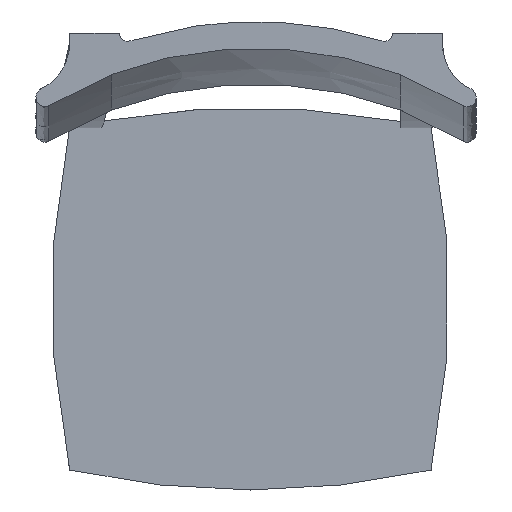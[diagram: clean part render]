
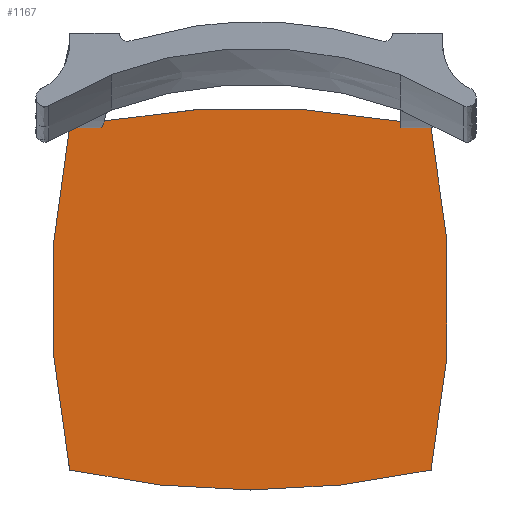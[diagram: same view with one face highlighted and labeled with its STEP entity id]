
A CAD part, top view. The second image highlights one B-rep face of the part: STEP entity #1167.
In plain terms, the highlighted planar face has unit normal (0, 0, 1).
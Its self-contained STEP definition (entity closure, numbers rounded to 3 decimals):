
#49=CIRCLE('',#1224,100.);
#50=CIRCLE('',#1226,100.);
#52=CIRCLE('',#1229,100.);
#54=CIRCLE('',#1232,100.);
#144=FACE_OUTER_BOUND('',#205,.T.);
#205=EDGE_LOOP('',(#1057,#1058,#1059,#1060,#1061,#1062,#1063,#1064,#1065));
#255=LINE('',#2959,#315);
#315=VECTOR('',#1360,10.);
#409=B_SPLINE_CURVE_WITH_KNOTS('',3,(#2941,#2942,#2943,#2944,#2945,#2946),
 .UNSPECIFIED.,.F.,.F.,(4,2,4),(-0.366,-0.183,-0.002),
 .UNSPECIFIED.);
#412=B_SPLINE_CURVE_WITH_KNOTS('',3,(#3015,#3016,#3017,#3018),
 .UNSPECIFIED.,.F.,.F.,(4,4),(-0.05,-0.05),
 .UNSPECIFIED.);
#413=B_SPLINE_CURVE_WITH_KNOTS('',3,(#3019,#3020,#3021,#3022),
 .UNSPECIFIED.,.F.,.F.,(4,4),(-0.291,-0.216),
 .UNSPECIFIED.);
#421=B_SPLINE_CURVE_WITH_KNOTS('',3,(#3169,#3170,#3171,#3172,#3173,#3174),
 .UNSPECIFIED.,.F.,.F.,(4,2,4),(-0.366,-0.183,0.),
 .UNSPECIFIED.);
#457=VERTEX_POINT('',#1686);
#519=VERTEX_POINT('',#2938);
#520=VERTEX_POINT('',#2940);
#523=VERTEX_POINT('',#2957);
#525=VERTEX_POINT('',#2963);
#526=VERTEX_POINT('',#2970);
#527=VERTEX_POINT('',#2975);
#532=VERTEX_POINT('',#3012);
#533=VERTEX_POINT('',#3014);
#678=EDGE_CURVE('',#519,#520,#409,.T.);
#684=EDGE_CURVE('',#523,#519,#255,.T.);
#687=EDGE_CURVE('',#523,#525,#49,.T.);
#688=EDGE_CURVE('',#457,#526,#50,.T.);
#691=EDGE_CURVE('',#527,#520,#52,.T.);
#695=EDGE_CURVE('',#526,#527,#54,.T.);
#702=EDGE_CURVE('',#532,#533,#412,.T.);
#703=EDGE_CURVE('',#533,#525,#413,.T.);
#722=EDGE_CURVE('',#457,#532,#421,.T.);
#1057=ORIENTED_EDGE('',*,*,#702,.F.);
#1058=ORIENTED_EDGE('',*,*,#722,.F.);
#1059=ORIENTED_EDGE('',*,*,#688,.T.);
#1060=ORIENTED_EDGE('',*,*,#695,.T.);
#1061=ORIENTED_EDGE('',*,*,#691,.T.);
#1062=ORIENTED_EDGE('',*,*,#678,.F.);
#1063=ORIENTED_EDGE('',*,*,#684,.F.);
#1064=ORIENTED_EDGE('',*,*,#687,.T.);
#1065=ORIENTED_EDGE('',*,*,#703,.F.);
#1110=PLANE('',#1243);
#1167=ADVANCED_FACE('',(#144),#1110,.T.);
#1224=AXIS2_PLACEMENT_3D('',#2968,#1365,#1366);
#1226=AXIS2_PLACEMENT_3D('',#2971,#1369,#1370);
#1229=AXIS2_PLACEMENT_3D('',#2976,#1376,#1377);
#1232=AXIS2_PLACEMENT_3D('',#2983,#1384,#1385);
#1243=AXIS2_PLACEMENT_3D('',#3168,#1417,#1418);
#1360=DIRECTION('',(0.,-1.,0.));
#1365=DIRECTION('center_axis',(0.,0.,1.));
#1366=DIRECTION('ref_axis',(0.218,0.976,0.));
#1369=DIRECTION('center_axis',(0.,0.,1.));
#1370=DIRECTION('ref_axis',(-0.978,0.207,0.));
#1376=DIRECTION('center_axis',(0.,0.,1.));
#1377=DIRECTION('ref_axis',(0.978,-0.207,0.));
#1384=DIRECTION('center_axis',(0.,0.,1.));
#1385=DIRECTION('ref_axis',(-0.218,-0.976,0.));
#1417=DIRECTION('center_axis',(0.,0.,1.));
#1418=DIRECTION('ref_axis',(0.,-1.,0.));
#1686=CARTESIAN_POINT('',(0.,-6.319,46.409));
#2938=CARTESIAN_POINT('',(40.,-6.319,46.409));
#2940=CARTESIAN_POINT('',(43.642,-6.321,46.409));
#2941=CARTESIAN_POINT('Ctrl Pts',(40.,-6.319,46.409));
#2942=CARTESIAN_POINT('Ctrl Pts',(40.61,-6.319,46.409));
#2943=CARTESIAN_POINT('Ctrl Pts',(41.22,-6.319,46.409));
#2944=CARTESIAN_POINT('Ctrl Pts',(42.434,-6.32,46.409));
#2945=CARTESIAN_POINT('Ctrl Pts',(43.038,-6.32,46.409));
#2946=CARTESIAN_POINT('Ctrl Pts',(43.642,-6.321,46.409));
#2957=CARTESIAN_POINT('',(40.,-5.577,46.409));
#2959=CARTESIAN_POINT('',(40.,-1.308,46.409));
#2963=CARTESIAN_POINT('',(3.66,-5.572,46.409));
#2968=CARTESIAN_POINT('Origin',(21.816,-103.91,46.409));
#2970=CARTESIAN_POINT('',(0.,-47.659,46.409));
#2971=CARTESIAN_POINT('Origin',(97.84,-26.989,46.409));
#2975=CARTESIAN_POINT('',(43.642,-47.659,46.409));
#2976=CARTESIAN_POINT('Origin',(-54.199,-26.99,46.409));
#2983=CARTESIAN_POINT('Origin',(21.821,49.931,46.409));
#3012=CARTESIAN_POINT('',(3.66,-6.321,46.409));
#3014=CARTESIAN_POINT('',(3.66,-6.319,46.409));
#3015=CARTESIAN_POINT('Ctrl Pts',(3.66,-6.321,46.409));
#3016=CARTESIAN_POINT('Ctrl Pts',(3.66,-6.32,46.409));
#3017=CARTESIAN_POINT('Ctrl Pts',(3.66,-6.319,46.409));
#3018=CARTESIAN_POINT('Ctrl Pts',(3.66,-6.319,46.409));
#3019=CARTESIAN_POINT('Ctrl Pts',(3.66,-6.318,46.409));
#3020=CARTESIAN_POINT('Ctrl Pts',(3.66,-6.069,46.409));
#3021=CARTESIAN_POINT('Ctrl Pts',(3.66,-5.82,46.409));
#3022=CARTESIAN_POINT('Ctrl Pts',(3.66,-5.571,46.409));
#3168=CARTESIAN_POINT('Origin',(0.,-6.319,
46.409));
#3169=CARTESIAN_POINT('Ctrl Pts',(0.,-6.319,46.409));
#3170=CARTESIAN_POINT('Ctrl Pts',(0.61,-6.319,46.409));
#3171=CARTESIAN_POINT('Ctrl Pts',(1.22,-6.319,46.409));
#3172=CARTESIAN_POINT('Ctrl Pts',(2.44,-6.32,46.409));
#3173=CARTESIAN_POINT('Ctrl Pts',(3.05,-6.32,46.409));
#3174=CARTESIAN_POINT('Ctrl Pts',(3.66,-6.321,46.409));
